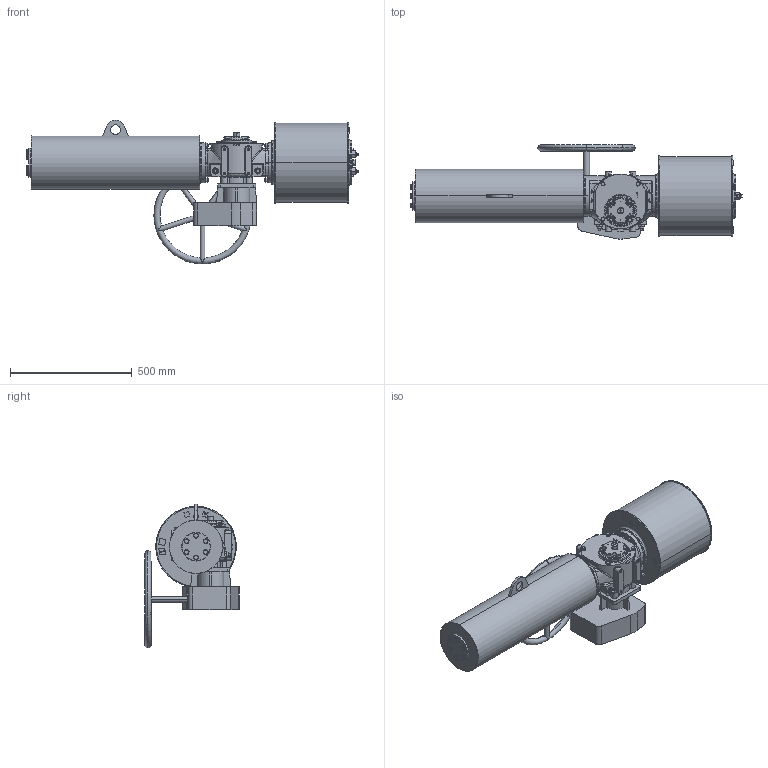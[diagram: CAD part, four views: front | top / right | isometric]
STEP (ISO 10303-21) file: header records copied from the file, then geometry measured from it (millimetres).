
FILE_DESCRIPTION (( 'STEP AP203' ), '1' );
FILE_NAME ('VTS1-300-SR-MW-FO.STEP', '2023-01-01T07:26:44', ( '' ), ( '' ), 'SwSTEP 2.0', 'SolidWorks 2020', '' );
FILE_SCHEMA (( 'CONFIG_CONTROL_DESIGN' ));
Length unit declared in the file: millimetre
Products named in the file (1): VTS1-300-SR-MW-FO
Bounding box: 1365.78 x 387.47 x 592 mm (x, y, z)
Volume: 67264307.6 mm3; surface area: 2080427.5 mm2
Topology: 9 solids, 15 shells, 2088 faces, 5480 edges, 3458 vertices
Faces by surface type: plane 781, cylinder 611, cone 407, bspline 227, torus 34, sphere 28
Entity records: 91062 total; most frequent: CARTESIAN_POINT 43180, ORIENTED_EDGE 10772, DIRECTION 8872, EDGE_CURVE 5386, VERTEX_POINT 3458, AXIS2_PLACEMENT_3D 3409, EDGE_LOOP 2294, FACE_OUTER_BOUND 2088
